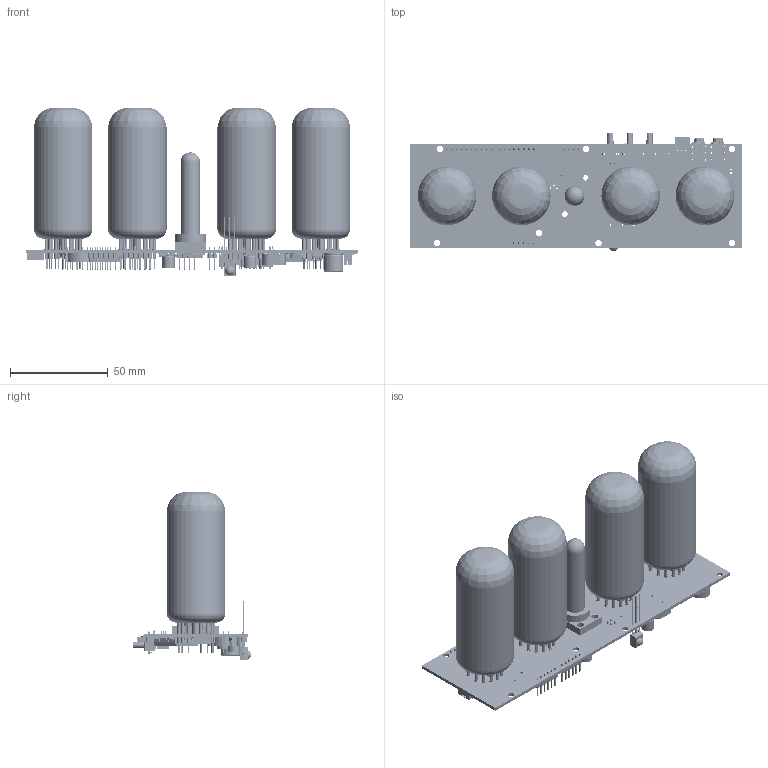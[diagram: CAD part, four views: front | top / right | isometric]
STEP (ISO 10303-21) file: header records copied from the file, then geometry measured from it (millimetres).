
FILE_DESCRIPTION(('Open CASCADE Model'),'2;1');
FILE_NAME('Open CASCADE Shape Model','2019-10-19T17:31:24',('Author'),( 'Open CASCADE'),'Open CASCADE STEP processor 6.8','Open CASCADE 6.8' ,'Unknown');
FILE_SCHEMA(('AUTOMOTIVE_DESIGN { 1 0 10303 214 1 1 1 1 }'));
Length unit declared in the file: millimetre
Products named in the file (1): PCB
Bounding box: 170 x 60.56 x 86.2 mm (x, y, z)
Volume: 20703.7 mm3; surface area: 72416.9 mm2
Topology: 120 solids, 4622 shells, 10439 faces, 38914 edges, 32965 vertices
Faces by surface type: plane 6383, cylinder 2937, bspline 828, sphere 210, cone 55, torus 18, revolution 8
Full cylindrical faces by diameter (mm): 0.7 x1, 0.8 x12, 0.9 x58, 1.1 x9, 1.3 x18, 1.4 x1, 1.5 x4, 1.6 x56, 3.3 x9, 5.1 x4
Entity records: 479403 total; most frequent: CARTESIAN_POINT 124267, DIRECTION 62983, ORIENTED_EDGE 53165, EDGE_CURVE 38561, VERTEX_POINT 32965, LINE 27675, VECTOR 27675, AXIS2_PLACEMENT_3D 17650
